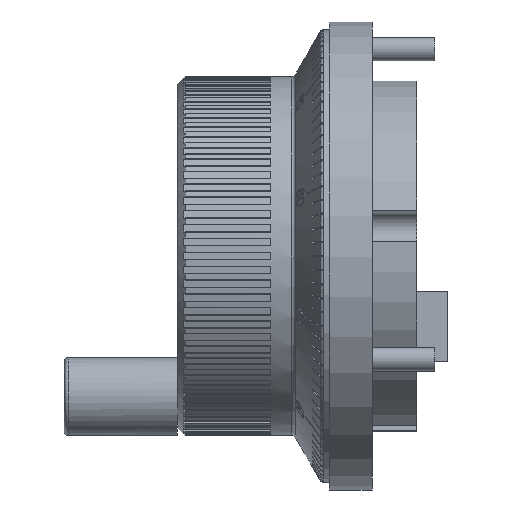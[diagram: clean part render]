
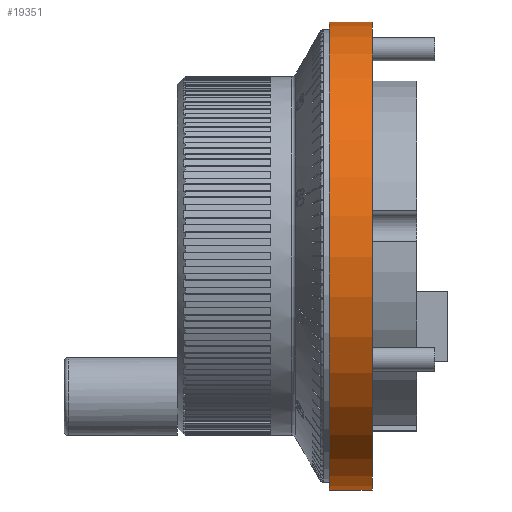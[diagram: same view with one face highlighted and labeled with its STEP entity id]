
A CAD part, left-side view. The second image highlights one B-rep face of the part: STEP entity #19351.
In plain terms, the highlighted cylindrical face has radius 30 mm (diameter 60 mm), a partial arc.
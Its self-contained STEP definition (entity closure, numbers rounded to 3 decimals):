
#12703 = VERTEX_POINT ( 'NONE', #28320 ) ;
#12704 = VERTEX_POINT ( 'NONE', #28321 ) ;
#12706 = VERTEX_POINT ( 'NONE', #28322 ) ;
#12708 = VERTEX_POINT ( 'NONE', #28323 ) ;
#17174 = EDGE_CURVE ( 'NONE', #12706, #12704, #39024, .T. ) ;
#17175 = EDGE_CURVE ( 'NONE', #12708, #12706, #39821, .T. ) ;
#17176 = EDGE_CURVE ( 'NONE', #12703, #12704, #39823, .T. ) ;
#17177 = EDGE_CURVE ( 'NONE', #12708, #12703, #39033, .T. ) ;
#17948 = ORIENTED_EDGE ( 'NONE', *, *, #17175, .T. ) ;
#17949 = ORIENTED_EDGE ( 'NONE', *, *, #17176, .F. ) ;
#17950 = ORIENTED_EDGE ( 'NONE', *, *, #17174, .T. ) ;
#17951 = ORIENTED_EDGE ( 'NONE', *, *, #17177, .F. ) ;
#19351 = ADVANCED_FACE ( 'NONE', ( #41196 ), #41207, .T. ) ;
#21378 = EDGE_LOOP ( 'NONE', ( #17948, #17950, #17949, #17951 ) ) ;
#28320 = CARTESIAN_POINT ( 'NONE',  ( -0.2, 0., 29.999 ) ) ;
#28321 = CARTESIAN_POINT ( 'NONE',  ( 0., 0., -30. ) ) ;
#28322 = CARTESIAN_POINT ( 'NONE',  ( 0., 5.5, -30. ) ) ;
#28323 = CARTESIAN_POINT ( 'NONE',  ( -0.2, 5.5, 29.999 ) ) ;
#38234 = AXIS2_PLACEMENT_3D ( 'NONE', #39029, #39030, #39031 ) ;
#38254 = AXIS2_PLACEMENT_3D ( 'NONE', #39023, #39027, #39028 ) ;
#38255 = VECTOR ( 'NONE', #39026, 1000. ) ;
#38258 = VECTOR ( 'NONE', #39035, 1000. ) ;
#39023 = CARTESIAN_POINT ( 'NONE',  ( 0., 5.5, 0. ) ) ;
#39024 = LINE ( 'NONE', #39025, #38255 ) ;
#39025 = CARTESIAN_POINT ( 'NONE',  ( 0., 0., -30. ) ) ;
#39026 = DIRECTION ( 'NONE',  ( 0., -1., 0. ) ) ;
#39027 = DIRECTION ( 'NONE',  ( 0., -1., 0. ) ) ;
#39028 = DIRECTION ( 'NONE',  ( 0., 0., -1. ) ) ;
#39029 = CARTESIAN_POINT ( 'NONE',  ( 0., 0., 0. ) ) ;
#39030 = DIRECTION ( 'NONE',  ( 0., -1., 0. ) ) ;
#39031 = DIRECTION ( 'NONE',  ( 0., 0., -1. ) ) ;
#39033 = LINE ( 'NONE', #39034, #38258 ) ;
#39034 = CARTESIAN_POINT ( 'NONE',  ( -0.2, 0., 29.999 ) ) ;
#39035 = DIRECTION ( 'NONE',  ( 0., -1., 0. ) ) ;
#39821 = CIRCLE ( 'NONE', #38254, 30. ) ;
#39823 = CIRCLE ( 'NONE', #38234, 30. ) ;
#41196 = FACE_OUTER_BOUND ( 'NONE', #21378, .T. ) ;
#41206 = AXIS2_PLACEMENT_3D ( 'NONE', #43289, #43290, #43291 ) ;
#41207 = CYLINDRICAL_SURFACE ( 'NONE', #41206, 30. ) ;
#43289 = CARTESIAN_POINT ( 'NONE',  ( 0., 0., 0. ) ) ;
#43290 = DIRECTION ( 'NONE',  ( 0., -1., 0. ) ) ;
#43291 = DIRECTION ( 'NONE',  ( 0., 0., -1. ) ) ;
